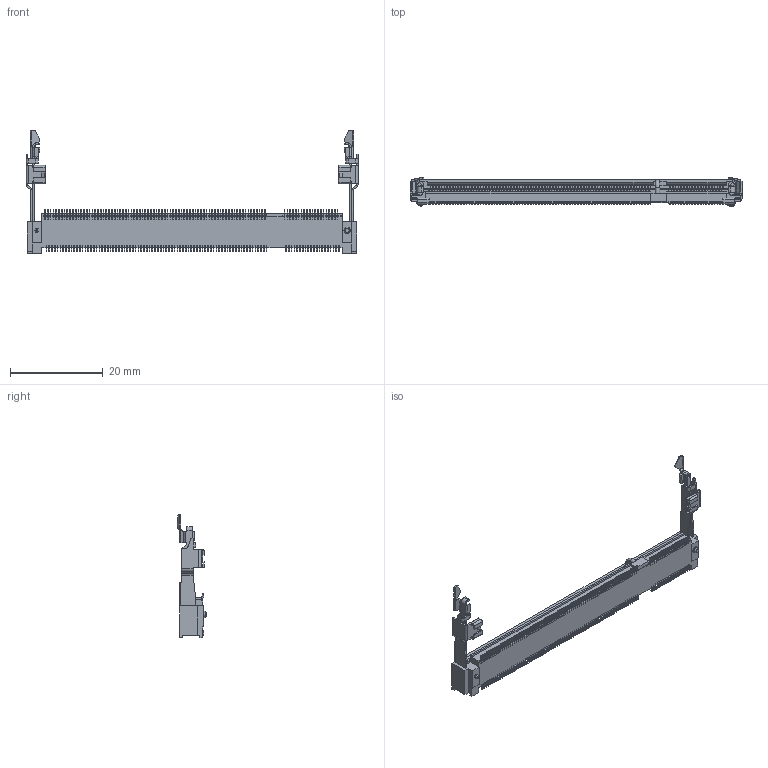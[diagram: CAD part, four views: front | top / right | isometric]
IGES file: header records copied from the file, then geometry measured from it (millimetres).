
Start section:  PTC IGES file: c-1473149-4-k2-3d.igs
Global section: file name: c-1473149-4-k2-3d.igs; native system: Pro/ENGINEER by Parametric Technology Corporation; preprocessor: 2009300; author: workeradm; organization: Unknown; units: millimetre
Bounding box: 71.5 x 6.42 x 26.54 mm (x, y, z)
Surface area: 3086.1 mm2 (no closed solid volume)
Topology: 0 solids, 0 shells, 4137 faces, 24280 edges, 24280 vertices
Faces by surface type: bspline 3046, revolution 1091
